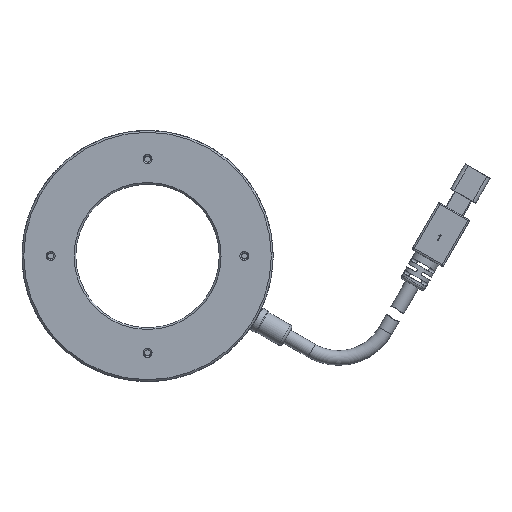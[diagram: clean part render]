
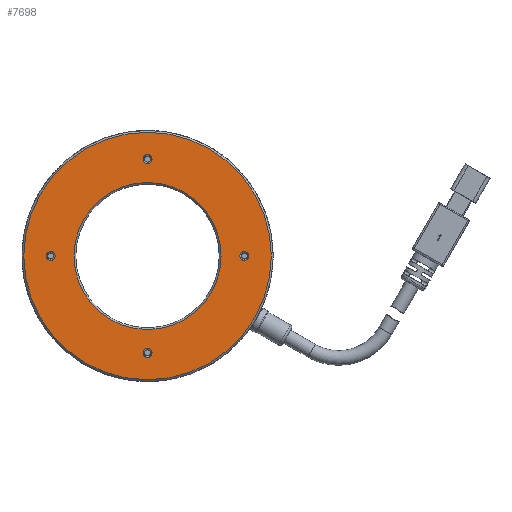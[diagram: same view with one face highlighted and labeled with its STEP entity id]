
A CAD part, front view. The second image highlights one B-rep face of the part: STEP entity #7698.
In plain terms, the highlighted planar face has unit normal (0, -1, 0).
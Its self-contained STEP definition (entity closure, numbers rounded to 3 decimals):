
#427 = CIRCLE ( 'NONE', #13238, 1.25 ) ;
#961 = VERTEX_POINT ( 'NONE', #22050 ) ;
#1191 = CARTESIAN_POINT ( 'NONE',  ( 30.479, 0., 15.145 ) ) ;
#1643 = ORIENTED_EDGE ( 'NONE', *, *, #6132, .F. ) ;
#1656 = AXIS2_PLACEMENT_3D ( 'NONE', #20394, #10300, #5258 ) ;
#2479 = FACE_BOUND ( 'NONE', #3864, .T. ) ;
#2755 = FACE_BOUND ( 'NONE', #16082, .T. ) ;
#2831 = VERTEX_POINT ( 'NONE', #6061 ) ;
#3042 = ORIENTED_EDGE ( 'NONE', *, *, #13751, .T. ) ;
#3318 = CARTESIAN_POINT ( 'NONE',  ( 10.479, 0., 42.145 ) ) ;
#3567 = CIRCLE ( 'NONE', #14518, 20.5 ) ;
#3864 = EDGE_LOOP ( 'NONE', ( #21722 ) ) ;
#4139 = DIRECTION ( 'NONE',  ( 0., -1., 0. ) ) ;
#4140 = DIRECTION ( 'NONE',  ( 0., -1., 0. ) ) ;
#4203 = DIRECTION ( 'NONE',  ( 0., 0., -1. ) ) ;
#4647 = DIRECTION ( 'NONE',  ( 0., -1., 0. ) ) ;
#5258 = DIRECTION ( 'NONE',  ( 0., 0., -1. ) ) ;
#5434 = EDGE_LOOP ( 'NONE', ( #22251 ) ) ;
#5578 = EDGE_CURVE ( 'NONE', #2831, #2831, #11502, .T. ) ;
#5817 = EDGE_CURVE ( 'NONE', #961, #961, #17701, .T. ) ;
#5862 = DIRECTION ( 'NONE',  ( 0., 0., -1. ) ) ;
#5934 = CIRCLE ( 'NONE', #15976, 1.25 ) ;
#6061 = CARTESIAN_POINT ( 'NONE',  ( 3.479, 0., 40.895 ) ) ;
#6132 = EDGE_CURVE ( 'NONE', #20610, #20610, #427, .T. ) ;
#6359 = CARTESIAN_POINT ( 'NONE',  ( 57.479, 0., 40.895 ) ) ;
#6959 = AXIS2_PLACEMENT_3D ( 'NONE', #10897, #4139, #4203 ) ;
#7698 = ADVANCED_FACE ( 'NONE', ( #18671, #2755, #2479, #21910, #21615, #11113 ), #12072, .F. ) ;
#7928 = DIRECTION ( 'NONE',  ( 0., 0., 1. ) ) ;
#8184 = CARTESIAN_POINT ( 'NONE',  ( 30.479, 0., 76.645 ) ) ;
#9707 = CIRCLE ( 'NONE', #13959, 34.5 ) ;
#10300 = DIRECTION ( 'NONE',  ( 0., -1., 0. ) ) ;
#10696 = VERTEX_POINT ( 'NONE', #13517 ) ;
#10897 = CARTESIAN_POINT ( 'NONE',  ( 3.479, 0., 42.145 ) ) ;
#10969 = ORIENTED_EDGE ( 'NONE', *, *, #15256, .T. ) ;
#11113 = FACE_BOUND ( 'NONE', #17313, .T. ) ;
#11502 = CIRCLE ( 'NONE', #6959, 1.25 ) ;
#12072 = PLANE ( 'NONE',  #19845 ) ;
#12210 = CARTESIAN_POINT ( 'NONE',  ( 30.479, 0., 42.145 ) ) ;
#13068 = EDGE_LOOP ( 'NONE', ( #10969 ) ) ;
#13171 = VERTEX_POINT ( 'NONE', #8184 ) ;
#13238 = AXIS2_PLACEMENT_3D ( 'NONE', #1191, #4647, #18433 ) ;
#13517 = CARTESIAN_POINT ( 'NONE',  ( 30.479, 0., 62.645 ) ) ;
#13751 = EDGE_CURVE ( 'NONE', #10696, #10696, #3567, .T. ) ;
#13864 = ORIENTED_EDGE ( 'NONE', *, *, #15070, .F. ) ;
#13959 = AXIS2_PLACEMENT_3D ( 'NONE', #12210, #15687, #19125 ) ;
#14518 = AXIS2_PLACEMENT_3D ( 'NONE', #20057, #16471, #7928 ) ;
#15060 = CARTESIAN_POINT ( 'NONE',  ( 30.479, 0., 13.895 ) ) ;
#15070 = EDGE_CURVE ( 'NONE', #19062, #19062, #5934, .T. ) ;
#15256 = EDGE_CURVE ( 'NONE', #13171, #13171, #9707, .T. ) ;
#15597 = EDGE_LOOP ( 'NONE', ( #13864 ) ) ;
#15687 = DIRECTION ( 'NONE',  ( 0., -1., 0. ) ) ;
#15976 = AXIS2_PLACEMENT_3D ( 'NONE', #18087, #4140, #5862 ) ;
#16082 = EDGE_LOOP ( 'NONE', ( #3042 ) ) ;
#16471 = DIRECTION ( 'NONE',  ( 0., 1., 0. ) ) ;
#17275 = DIRECTION ( 'NONE',  ( 0., 0., 1. ) ) ;
#17313 = EDGE_LOOP ( 'NONE', ( #1643 ) ) ;
#17701 = CIRCLE ( 'NONE', #1656, 1.25 ) ;
#18087 = CARTESIAN_POINT ( 'NONE',  ( 57.479, 0., 42.145 ) ) ;
#18433 = DIRECTION ( 'NONE',  ( 0., 0., -1. ) ) ;
#18671 = FACE_OUTER_BOUND ( 'NONE', #13068, .T. ) ;
#19062 = VERTEX_POINT ( 'NONE', #6359 ) ;
#19125 = DIRECTION ( 'NONE',  ( 0., 0., 1. ) ) ;
#19845 = AXIS2_PLACEMENT_3D ( 'NONE', #3318, #20416, #17275 ) ;
#20057 = CARTESIAN_POINT ( 'NONE',  ( 30.479, 0., 42.145 ) ) ;
#20394 = CARTESIAN_POINT ( 'NONE',  ( 30.479, 0., 69.145 ) ) ;
#20416 = DIRECTION ( 'NONE',  ( 0., 1., 0. ) ) ;
#20610 = VERTEX_POINT ( 'NONE', #15060 ) ;
#21615 = FACE_BOUND ( 'NONE', #15597, .T. ) ;
#21722 = ORIENTED_EDGE ( 'NONE', *, *, #5578, .F. ) ;
#21910 = FACE_BOUND ( 'NONE', #5434, .T. ) ;
#22050 = CARTESIAN_POINT ( 'NONE',  ( 30.479, 0., 67.895 ) ) ;
#22251 = ORIENTED_EDGE ( 'NONE', *, *, #5817, .F. ) ;
